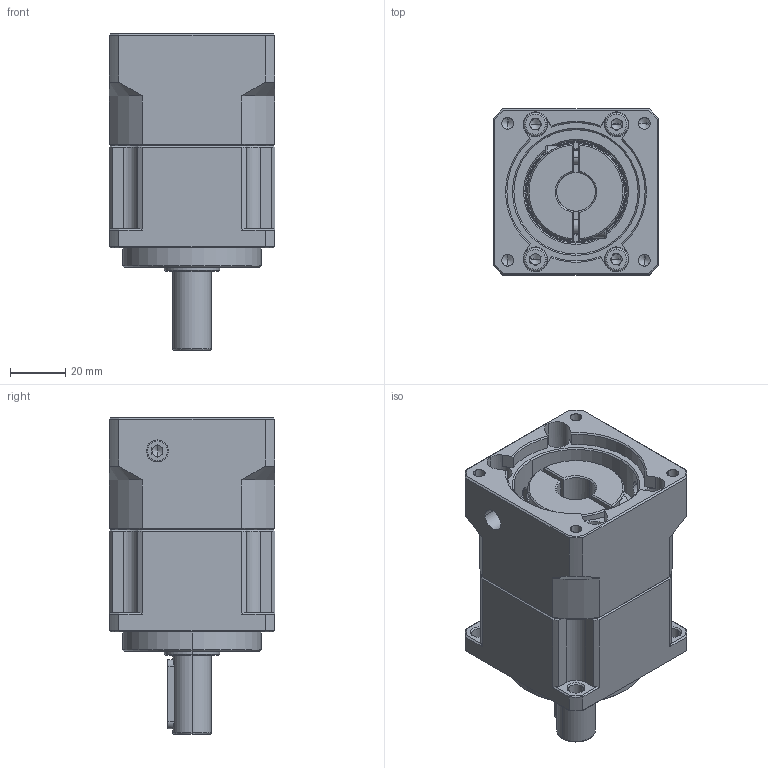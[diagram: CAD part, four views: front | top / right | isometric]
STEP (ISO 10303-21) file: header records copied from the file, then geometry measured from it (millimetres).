
FILE_DESCRIPTION (( 'STEP AP214' ), '1' );
FILE_NAME ('ZPB060-D14-L1-P1-14-50-70-M5.step', '2024-04-23T14:21:50', ( 'Windows 蚚誧' ), ( 'Organization' ), 'SwSTEP 2.0', 'SolidWorks 2016', '' );
FILE_SCHEMA (( 'AUTOMOTIVE_DESIGN' ));
Length unit declared in the file: millimetre
Products named in the file (1): ZPB060-D14-L1-P1-14-50-70-M5
Bounding box: 60 x 60 x 114.5 mm (x, y, z)
Volume: 231589.7 mm3; surface area: 68588 mm2
Topology: 14 solids, 14 shells, 1735 faces, 4933 edges, 3197 vertices
Faces by surface type: plane 868, bspline 322, cylinder 259, cone 148, torus 92, sphere 46
Entity records: 92734 total; most frequent: CARTESIAN_POINT 31595, ORIENTED_EDGE 9560, DIRECTION 7365, EDGE_CURVE 4780, VERTEX_POINT 3128, LINE 2797, VECTOR 2797, AXIS2_PLACEMENT_3D 2284
